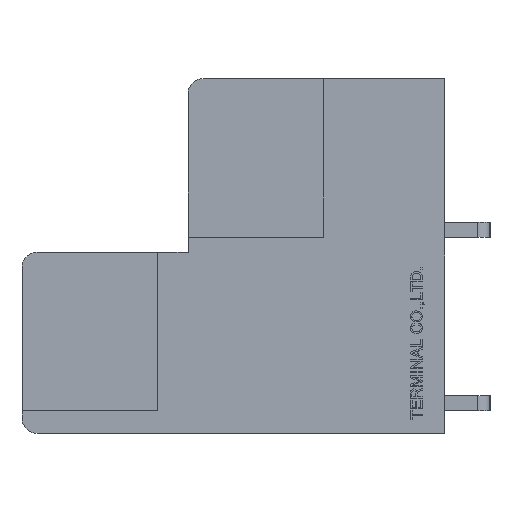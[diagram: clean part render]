
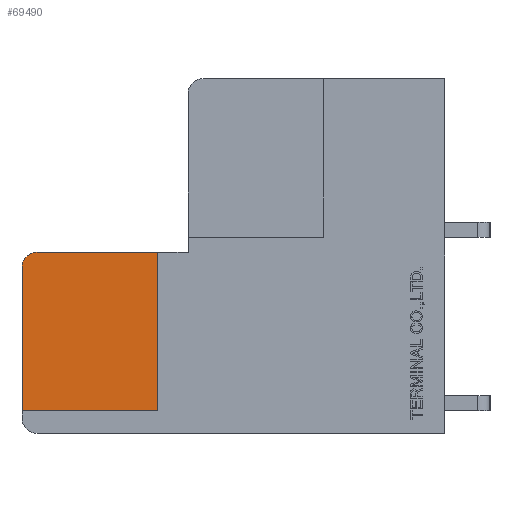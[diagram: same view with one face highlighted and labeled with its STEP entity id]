
A CAD part, left-side view. The second image highlights one B-rep face of the part: STEP entity #69490.
In plain terms, the highlighted planar face has unit normal (-1, 0, 0).
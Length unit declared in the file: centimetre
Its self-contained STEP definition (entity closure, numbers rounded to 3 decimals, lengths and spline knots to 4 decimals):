
#829=CIRCLE('',#118733,0.1);
#3915=VERTEX_POINT('',#91966);
#3916=VERTEX_POINT('',#91967);
#3919=VERTEX_POINT('',#91975);
#3921=VERTEX_POINT('',#91981);
#3922=VERTEX_POINT('',#91983);
#11204=VECTOR('',#77161,1.);
#11208=VECTOR('',#77166,1.);
#11211=VECTOR('',#77170,1.);
#11212=VECTOR('',#77173,1.);
#19441=LINE('',#91965,#11204);
#19445=LINE('',#91974,#11208);
#19448=LINE('',#91980,#11211);
#19449=LINE('',#91984,#11212);
#27782=EDGE_CURVE('',#3915,#3916,#19441,.T.);
#27786=EDGE_CURVE('',#3919,#3915,#19445,.T.);
#27789=EDGE_CURVE('',#3921,#3916,#19448,.T.);
#27790=EDGE_CURVE('',#3922,#3921,#829,.T.);
#27791=EDGE_CURVE('',#3919,#3922,#19449,.T.);
#39048=ORIENTED_EDGE('',*,*,#27786,.T.);
#39049=ORIENTED_EDGE('',*,*,#27782,.T.);
#39050=ORIENTED_EDGE('',*,*,#27789,.F.);
#39051=ORIENTED_EDGE('',*,*,#27790,.F.);
#39052=ORIENTED_EDGE('',*,*,#27791,.F.);
#60374=EDGE_LOOP('',(#39048,#39049,#39050,#39051,#39052));
#64934=FACE_BOUND('',#60374,.T.);
#69490=ADVANCED_FACE('',(#64934),#73645,.F.);
#73645=PLANE('',#118732);
#77161=DIRECTION('',(0.,0.,1.));
#77166=DIRECTION('',(0.,-1.,0.));
#77169=DIRECTION('',(1.,0.,0.));
#77170=DIRECTION('',(0.,-1.,0.));
#77171=DIRECTION('',(1.,0.,0.));
#77172=DIRECTION('',(0.,0.,-0.1));
#77173=DIRECTION('',(0.,0.,1.));
#91965=CARTESIAN_POINT('',(-1.76,-0.145,0.0375));
#91966=CARTESIAN_POINT('',(-1.76,-0.145,-0.45));
#91967=CARTESIAN_POINT('',(-1.76,-0.145,0.6));
#91974=CARTESIAN_POINT('',(-1.76,-0.1777,-0.45));
#91975=CARTESIAN_POINT('',(-1.76,0.755,-0.45));
#91979=CARTESIAN_POINT('',(-1.76,-0.6604,0.));
#91980=CARTESIAN_POINT('',(-1.76,0.655,0.6));
#91981=CARTESIAN_POINT('',(-1.76,0.655,0.6));
#91982=CARTESIAN_POINT('',(-1.76,0.655,0.5));
#91983=CARTESIAN_POINT('',(-1.76,0.755,0.5));
#91984=CARTESIAN_POINT('',(-1.76,0.755,-0.5));
#118732=AXIS2_PLACEMENT_3D('',#91979,#77169,$);
#118733=AXIS2_PLACEMENT_3D('',#91982,#77171,#77172);
